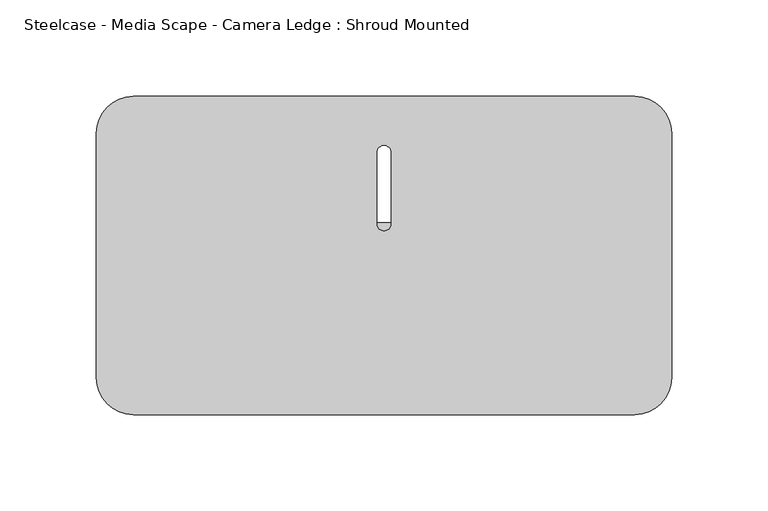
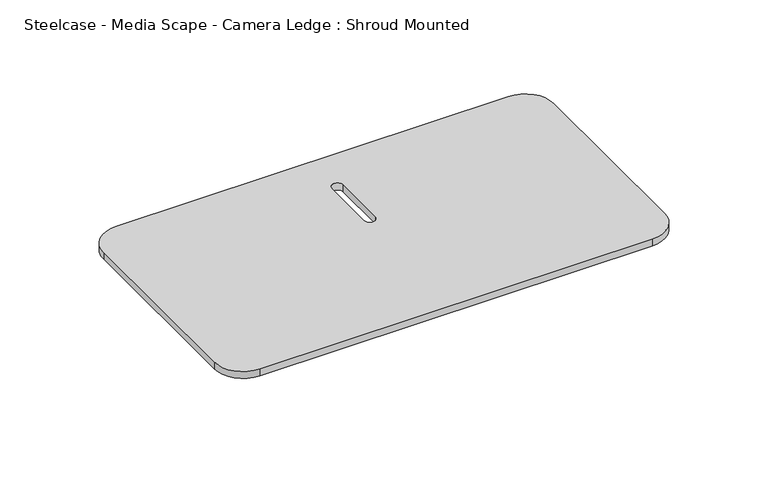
"""IFC4 building model written with IfcOpenShell, lengths in millimetres: furniture geometry, Steelcase - Media Scape - Camera Ledge : Shroud Mounted."""

import ifcopenshell
import ifcopenshell.guid

model = None  # the IFC model being written
_history = None  # IfcOwnerHistory: only IFC2X3 demands one
_inside = {}  # id of a spatial element -> (the spatial element, [elements in it])
_under = {}  # id of a project, library or spatial element -> (it, [spatial elements below it])
_declared = {}  # id of a project -> (the project, [libraries it declares])
_typed = {}  # id of a type object -> (the type object, [elements of that type])
_made_of = {}  # id of a material, layer set ... -> (it, [elements and type objects made of it])


def new_model(schema):
    """Start an empty IFC model of exactly this schema.

    Asked for "IFC4X3", IfcOpenShell would pick the latest addendum, in which some entities
    have other attributes; the version numbers below select the first issue.
    IFC2X3 requires an IfcOwnerHistory on every rooted entity: one is made here for all.
    """
    global model, _history
    if schema == "IFC4X3":
        model = ifcopenshell.file(schema_version=(4, 3, 0, 0))
    else:
        model = ifcopenshell.file(schema=schema)
    _inside.clear()
    _under.clear()
    _declared.clear()
    _typed.clear()
    _made_of.clear()
    _history = None
    if model.schema == "IFC2X3":
        org = make("IfcOrganization", Name="unknown")
        user = make(
            "IfcPersonAndOrganization",
            ThePerson=make("IfcPerson", FamilyName="unknown"),
            TheOrganization=org,
        )
        app = make(
            "IfcApplication",
            ApplicationDeveloper=org,
            Version="unknown",
            ApplicationFullName="unknown",
            ApplicationIdentifier="unknown",
        )
        _history = make(
            "IfcOwnerHistory",
            OwningUser=user,
            OwningApplication=app,
            ChangeAction="ADDED",
            CreationDate=0,
        )
    return model


def make(cls, **values):
    """One entity of the class cls with the attributes given. An attribute that is None is left unset."""
    return model.create_entity(
        cls, **{name: value for name, value in values.items() if value is not None}
    )


def rooted(cls, **values):
    """An entity with a GlobalId (a new one), such as an element, a storey or a relation."""
    return make(cls, GlobalId=ifcopenshell.guid.new(), OwnerHistory=_history, **values)


def si_unit(unit_type, name, prefix=None):
    """IfcSIUnit, for example si_unit("LENGTHUNIT", "METRE", prefix="MILLI")."""
    return make("IfcSIUnit", UnitType=unit_type, Prefix=prefix, Name=name)


def assignment(units):
    """IfcUnitAssignment: the units of a project."""
    return None if units is None else make("IfcUnitAssignment", Units=units)


def point(xyz):
    """IfcCartesianPoint."""
    return None if xyz is None else make("IfcCartesianPoint", Coordinates=xyz)


def direction(xyz):
    """IfcDirection."""
    return None if xyz is None else make("IfcDirection", DirectionRatios=xyz)


def frame(location, z_axis=None, x_axis=None):
    """IfcAxis2Placement3D, a coordinate frame: its origin and axes. An axis left out is left unset."""
    return make(
        "IfcAxis2Placement3D",
        Location=point(location),
        Axis=direction(z_axis),
        RefDirection=direction(x_axis),
    )


def frame_2d(location, x_axis=None):
    """IfcAxis2Placement2D, a coordinate frame in the plane: its origin and x axis."""
    return make(
        "IfcAxis2Placement2D", Location=point(location), RefDirection=direction(x_axis)
    )


def origin():
    """The frame at (0, 0, 0) with its axes left unset."""
    return frame((0.0, 0.0, 0.0))


def place(relative_to, where):
    """IfcLocalPlacement: puts the frame where relative to a parent placement (None: the world)."""
    return make(
        "IfcLocalPlacement", PlacementRelTo=relative_to, RelativePlacement=where
    )


def context(
    kind, dimensions, precision=None, world=None, true_north=None, identifier=None
):
    """IfcGeometricRepresentationContext, for example the 3D "Model" context."""
    return make(
        "IfcGeometricRepresentationContext",
        ContextIdentifier=identifier,
        ContextType=kind,
        CoordinateSpaceDimension=dimensions,
        Precision=precision,
        WorldCoordinateSystem=world,
        TrueNorth=true_north,
    )


def project(units=None, contexts=None):
    """IfcProject with its units and contexts."""
    return rooted(
        "IfcProject",
        Name="project",
        RepresentationContexts=contexts,
        UnitsInContext=assignment(units),
    )


def spatial(cls, under=None, at=None, **own):
    """A site, building, storey or space (cls), placed at a placement, below another one or the project."""
    s = rooted(cls, ObjectPlacement=at, **own)
    if under is not None:
        _under.setdefault(under.id(), (under, []))[1].append(s)
    return s


def polyline(points):
    """IfcPolyline through the points."""
    return make("IfcPolyline", Points=[point(p) for p in points])


def circle_curve(where, radius):
    """IfcCircle in the frame where."""
    return make("IfcCircle", Position=where, Radius=radius)


def trimmed(basis, trim1, trim2, sense, master):
    """IfcTrimmedCurve: the piece of a basis curve between two trims."""
    return make(
        "IfcTrimmedCurve",
        BasisCurve=basis,
        Trim1=trim1,
        Trim2=trim2,
        SenseAgreement=sense,
        MasterRepresentation=master,
    )


def segment(curve, same_sense, transition):
    """IfcCompositeCurveSegment."""
    return make(
        "IfcCompositeCurveSegment",
        Transition=transition,
        SameSense=same_sense,
        ParentCurve=curve,
    )


def composite_curve(segments, self_intersect=None):
    """IfcCompositeCurve: segments joined end to end."""
    return make("IfcCompositeCurve", Segments=segments, SelfIntersect=self_intersect)


def outline(outer, holes=None, kind="AREA"):
    """IfcArbitraryClosedProfileDef: a profile drawn as a closed curve; with holes, ...WithVoids."""
    if holes is None:
        return make("IfcArbitraryClosedProfileDef", ProfileType=kind, OuterCurve=outer)
    return make(
        "IfcArbitraryProfileDefWithVoids",
        ProfileType=kind,
        OuterCurve=outer,
        InnerCurves=holes,
    )


def extrude(swept, where, along, depth):
    """IfcExtrudedAreaSolid: the profile swept, set in the frame where, extruded along a direction by depth."""
    return make(
        "IfcExtrudedAreaSolid",
        SweptArea=swept,
        Position=where,
        ExtrudedDirection=direction(along),
        Depth=depth,
    )


def shape(context_of_items, identifier, shape_type, items):
    """IfcShapeRepresentation: the items that make up one representation, for example the "Body"."""
    return make(
        "IfcShapeRepresentation",
        ContextOfItems=context_of_items,
        RepresentationIdentifier=identifier,
        RepresentationType=shape_type,
        Items=items,
    )


def source(mapping_origin, context_of_items, identifier, shape_type, items):
    """IfcRepresentationMap: a shape defined once, which mapped items show again and again."""
    return make(
        "IfcRepresentationMap",
        MappingOrigin=mapping_origin,
        MappedRepresentation=shape(context_of_items, identifier, shape_type, items),
    )


def transform(
    local_origin,
    x_axis=None,
    y_axis=None,
    z_axis=None,
    scale=None,
    scale2=None,
    scale3=None,
    uniform=True,
):
    """IfcCartesianTransformationOperator3D, or its non-uniform kind. x_axis, y_axis, z_axis: its Axis1, 2, 3."""
    if uniform:
        return make(
            "IfcCartesianTransformationOperator3D",
            Axis1=direction(x_axis),
            Axis2=direction(y_axis),
            LocalOrigin=point(local_origin),
            Scale=scale,
            Axis3=direction(z_axis),
        )
    return make(
        "IfcCartesianTransformationOperator3DnonUniform",
        Axis1=direction(x_axis),
        Axis2=direction(y_axis),
        LocalOrigin=point(local_origin),
        Scale=scale,
        Axis3=direction(z_axis),
        Scale2=scale2,
        Scale3=scale3,
    )


def mapped(mapping_source, mapping_target):
    """IfcMappedItem: shows the shape of a source again, moved by a transform."""
    return make(
        "IfcMappedItem", MappingSource=mapping_source, MappingTarget=mapping_target
    )


def made_of(thing, what):
    """Note that an element or type object is made of a material, layer set ...; save() writes the relation."""
    if what is not None:
        _made_of.setdefault(what.id(), (what, []))[1].append(thing)
    return thing


def element(
    cls,
    number,
    at=None,
    inside=None,
    cuts=None,
    type_object=None,
    material=None,
    context=None,
    identifier="Body",
    shape_type=None,
    held_by="IfcProductDefinitionShape",
    body=None,
    shapes=None,
    **own,
):
    """One element of the class cls, such as IfcWall. Its Tag is "e" and its number.

    at: its placement. inside: the storey or other place that contains it. cuts: it is an
    opening in that element (IfcRelVoidsElement). A single representation is given by context,
    identifier, shape_type and body (its items); several are given by shapes. held_by: the class
    of the entity that holds the representations. save() writes the other relations.
    """
    e = rooted(cls, Tag="e%d" % number, ObjectPlacement=at, **own)
    if body is not None:
        shapes = [shape(context, identifier, shape_type, body)]
    if shapes is not None:
        e.Representation = make(held_by, Representations=shapes)
    if inside is not None:
        _inside.setdefault(inside.id(), (inside, []))[1].append(e)
    if cuts is not None:
        rooted(
            "IfcRelVoidsElement", RelatingBuildingElement=cuts, RelatedOpeningElement=e
        )
    if type_object is not None:
        _typed.setdefault(type_object.id(), (type_object, []))[1].append(e)
    return made_of(e, material)


def aggregate(whole, parts):
    """IfcRelAggregates: a whole, such as a stair, and the parts it consists of."""
    return rooted("IfcRelAggregates", RelatingObject=whole, RelatedObjects=parts)


def save(model, path):
    """Write the relations noted so far, then the file.

    IfcRelAggregates (storeys below a building ...), IfcRelContainedInSpatialStructure (elements
    in a storey), IfcRelDefinesByType, IfcRelAssociatesMaterial and IfcRelDeclares: one each for
    every whole, place, type object, material and project.
    """
    for whole, parts in _under.values():
        aggregate(whole, parts)
    for where, things in _inside.values():
        rooted(
            "IfcRelContainedInSpatialStructure",
            RelatedElements=things,
            RelatingStructure=where,
        )
    for kind, things in _typed.values():
        rooted("IfcRelDefinesByType", RelatedObjects=things, RelatingType=kind)
    for what, things in _made_of.values():
        rooted("IfcRelAssociatesMaterial", RelatedObjects=things, RelatingMaterial=what)
    for by, libraries in _declared.values():
        rooted("IfcRelDeclares", RelatingContext=by, RelatedDefinitions=libraries)
    model.write(path)


def steelcase_media_scape_camera_ledge_shroud_mounted_e9ef200e(model_context):
    return source(origin(), model_context, "Body", "SweptSolid", [
        extrude(outline(composite_curve([segment(trimmed(circle_curve(frame_2d((87.3967836, 1478.85024)), 1.2559831), [point((86.1408005, 1478.85024))], [point((87.3967836, 1477.594257))], True, "CARTESIAN"), True, "CONTINUOUS"), segment(polyline([(87.3967836, 1477.594257), (124.2408005, 1477.594257), (124.2408005, 1475.3082047), (87.7425568, 1475.3082047)]), True, "CONTINUOUS"), segment(trimmed(circle_curve(frame_2d((87.7425568, 1479.1959587)), 3.8877541), [point((87.7425568, 1475.3082047))], [point((83.8548027, 1479.1959587))], False, "CARTESIAN"), True, "CONTINUOUS"), segment(polyline([(83.8548027, 1479.1959587), (83.8548027, 1485.9), (86.1408005, 1485.9), (86.1408005, 1478.85024)]), True, "CONTINUOUS")], self_intersect=False)), frame((-127.0, 0.0, 0.0), z_axis=(1.0, 0.0, 0.0), x_axis=(0.0, 1.0, 0.0)), (0.0, 0.0, 1.0), 254.0),
        extrude(outline(composite_curve([segment(trimmed(circle_curve(frame_2d((130.175003, 170.6974035)), 19.05), [point((130.175003, 189.7474035))], [point((149.225003, 170.6974035))], False, "CARTESIAN"), True, "CONTINUOUS"), segment(polyline([(149.225003, 170.6974035), (149.225003, 43.6973974)]), True, "CONTINUOUS"), segment(trimmed(circle_curve(frame_2d((130.175003, 43.6973974)), 19.05), [point((149.225003, 43.6973974))], [point((130.175003, 24.6473974))], False, "CARTESIAN"), True, "CONTINUOUS"), segment(polyline([(130.175003, 24.6473974), (-130.175003, 24.6473974)]), True, "CONTINUOUS"), segment(trimmed(circle_curve(frame_2d((-130.175003, 43.6973974)), 19.05), [point((-130.175003, 24.6473974))], [point((-149.225003, 43.6973974))], False, "CARTESIAN"), True, "CONTINUOUS"), segment(polyline([(-149.225003, 43.6973974), (-149.225003, 170.6974035)]), True, "CONTINUOUS"), segment(trimmed(circle_curve(frame_2d((-130.175003, 170.6974035)), 19.05), [point((-149.225003, 170.6974035))], [point((-130.175003, 189.7474035))], False, "CARTESIAN"), True, "CONTINUOUS"), segment(polyline([(-130.175003, 189.7474035), (130.175003, 189.7474035)]), True, "CONTINUOUS")], self_intersect=False), holes=[composite_curve([segment(trimmed(circle_curve(frame_2d((0.0, 123.5591549)), 3.556), [point((-3.556, 123.5591549))], [point((3.556, 123.5591549))], True, "CARTESIAN"), True, "CONTINUOUS"), segment(polyline([(3.556, 123.5591549), (3.556, 160.6578621)]), True, "CONTINUOUS"), segment(trimmed(circle_curve(frame_2d((0.0, 160.6578621)), 3.556), [point((3.556, 160.6578621))], [point((-3.556, 160.6578621))], True, "CARTESIAN"), True, "CONTINUOUS"), segment(polyline([(-3.556, 160.6578621), (-3.556, 123.5591549)]), True, "CONTINUOUS")], self_intersect=False)]), frame((0.0, 0.0, 1485.9), z_axis=(0.0, 0.0, 1.0), x_axis=(1.0, 0.0, 0.0)), (0.0, 0.0, 1.0), 4.826),
    ])


if __name__ == "__main__":
    model = new_model("IFC4")
    model_context = context("Model", 3, world=origin())
    ifc_project = project(units=[si_unit("LENGTHUNIT", "METRE", prefix="MILLI")], contexts=[model_context])
    site = spatial("IfcSite", under=ifc_project)
    building = spatial("IfcBuilding", under=site)
    placement = place(None, origin())
    steelcase_media_scape_camera_ledge_shroud_mounted_shape = steelcase_media_scape_camera_ledge_shroud_mounted_e9ef200e(model_context)
    element("IfcFurniture", 1, ObjectType="Steelcase - Media Scape - Camera Ledge : Shroud Mounted", at=placement, inside=building, context=model_context, shape_type="MappedRepresentation", body=[
        mapped(steelcase_media_scape_camera_ledge_shroud_mounted_shape, transform((0.0, 0.0, 0.0), x_axis=(1.0, 0.0, 0.0), y_axis=(0.0, 1.0, 0.0), z_axis=(0.0, 0.0, 1.0))),
    ])
    save(model, "model.ifc")
